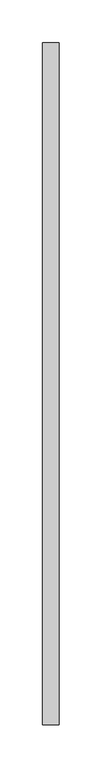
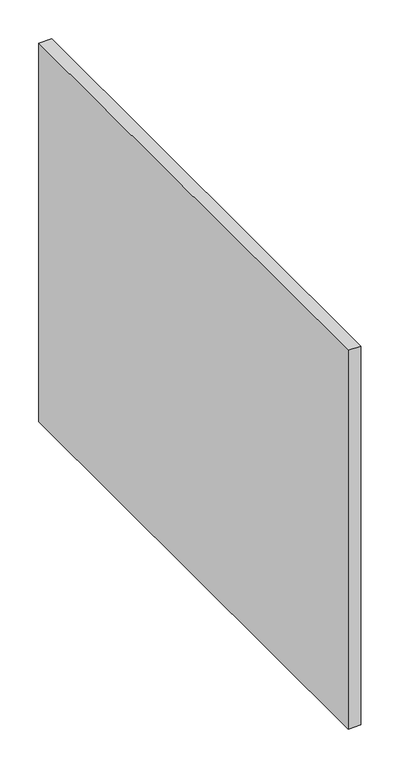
"""IFC4 building model written with IfcOpenShell, lengths in millimetres: proxy geometry, FOUNDATION^STANDARD CREDENZA_WEBSITE DETAIL-CENTER PARTITION."""

from ifc_helpers import new_model, si_unit, frame, origin, place, context, project, spatial, polyline, outline, extrude, source, transform, mapped, element, save


def generic_models_a942450a(model_context):
    return source(origin(), model_context, "Body", "SweptSolid", [
        extrude(outline(polyline([(1228.725, 57.15), (1209.675, 57.15), (1209.675, 850.9), (1228.725, 850.9), (1228.725, 57.15)])), frame((0.0, 0.0, 19.05), z_axis=(0.0, 0.0, 1.0), x_axis=(1.0, 0.0, 0.0)), (0.0, 0.0, 1.0), 593.725),
    ])


if __name__ == "__main__":
    model = new_model("IFC4")
    model_context = context("Model", 3, world=origin())
    ifc_project = project(units=[si_unit("LENGTHUNIT", "METRE", prefix="MILLI")], contexts=[model_context])
    site = spatial("IfcSite", under=ifc_project)
    building = spatial("IfcBuilding", under=site)
    placement = place(None, origin())
    generic_models_shape = generic_models_a942450a(model_context)
    element("IfcBuildingElementProxy", 1, Name="FOUNDATION^STANDARD CREDENZA_WEBSITE DETAIL-CENTER PARTITION", ObjectType="FOUNDATION^STANDARD CREDENZA_WEBSITE DETAIL-CENTER PARTITION", at=placement, inside=building, context=model_context, shape_type="MappedRepresentation", body=[
        mapped(generic_models_shape, transform((0.0, 0.0, 0.0), x_axis=(1.0, 0.0, 0.0), y_axis=(0.0, 1.0, 0.0), z_axis=(0.0, 0.0, 1.0))),
    ])
    save(model, "model.ifc")
